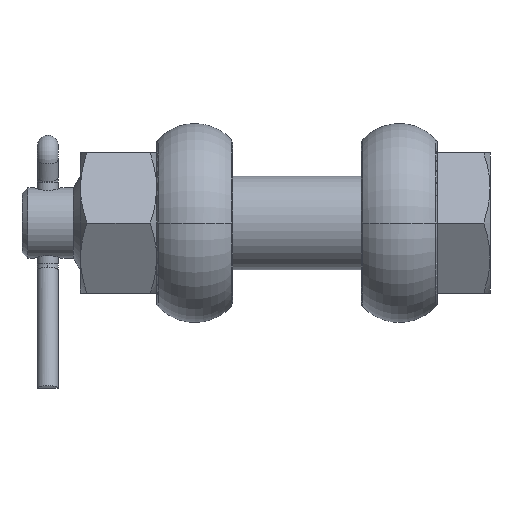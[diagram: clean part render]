
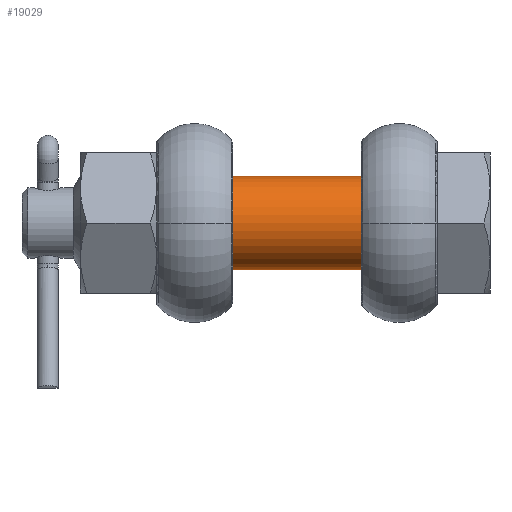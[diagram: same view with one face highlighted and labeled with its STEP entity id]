
A CAD part, front view. The second image highlights one B-rep face of the part: STEP entity #19029.
In plain terms, the highlighted cylindrical face has radius 8 mm (diameter 16 mm), a partial arc.
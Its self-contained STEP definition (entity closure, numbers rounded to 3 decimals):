
#225 = AXIS2_PLACEMENT_3D ( 'NONE', #18392, #20500, #24165 ) ;
#3738 = ORIENTED_EDGE ( 'NONE', *, *, #13844, .T. ) ;
#4123 = CYLINDRICAL_SURFACE ( 'NONE', #22238, 8. ) ;
#4561 = ORIENTED_EDGE ( 'NONE', *, *, #18175, .T. ) ;
#4965 = DIRECTION ( 'NONE',  ( -1., 0., 0. ) ) ;
#5085 = LINE ( 'NONE', #20805, #25328 ) ;
#6959 = CARTESIAN_POINT ( 'NONE',  ( 22., 0., 0. ) ) ;
#7570 = FACE_OUTER_BOUND ( 'NONE', #23518, .T. ) ;
#7672 = LINE ( 'NONE', #21552, #13549 ) ;
#9467 = VERTEX_POINT ( 'NONE', #24201 ) ;
#10211 = CARTESIAN_POINT ( 'NONE',  ( 24., 0., 0. ) ) ;
#10435 = CARTESIAN_POINT ( 'NONE',  ( 22., 0., -8. ) ) ;
#12988 = DIRECTION ( 'NONE',  ( -1., 0., 0. ) ) ;
#13549 = VECTOR ( 'NONE', #21464, 1000. ) ;
#13844 = EDGE_CURVE ( 'NONE', #18125, #19588, #19009, .T. ) ;
#15239 = EDGE_CURVE ( 'NONE', #25447, #9467, #23326, .T. ) ;
#16087 = CARTESIAN_POINT ( 'NONE',  ( 22., 0., 8. ) ) ;
#16903 = DIRECTION ( 'NONE',  ( 0., 0., 1. ) ) ;
#18125 = VERTEX_POINT ( 'NONE', #10435 ) ;
#18175 = EDGE_CURVE ( 'NONE', #19588, #9467, #5085, .T. ) ;
#18392 = CARTESIAN_POINT ( 'NONE',  ( -17., 0., 0. ) ) ;
#19009 = CIRCLE ( 'NONE', #23192, 8. ) ;
#19029 = ADVANCED_FACE ( 'NONE', ( #7570 ), #4123, .T. ) ;
#19588 = VERTEX_POINT ( 'NONE', #16087 ) ;
#20269 = EDGE_CURVE ( 'NONE', #18125, #25447, #7672, .T. ) ;
#20500 = DIRECTION ( 'NONE',  ( -1., 0., 0. ) ) ;
#20805 = CARTESIAN_POINT ( 'NONE',  ( 24., 0., 8. ) ) ;
#21464 = DIRECTION ( 'NONE',  ( -1., 0., 0. ) ) ;
#21552 = CARTESIAN_POINT ( 'NONE',  ( 24., 0., -8. ) ) ;
#22238 = AXIS2_PLACEMENT_3D ( 'NONE', #10211, #24151, #23894 ) ;
#22982 = CARTESIAN_POINT ( 'NONE',  ( -17., 0., -8. ) ) ;
#23192 = AXIS2_PLACEMENT_3D ( 'NONE', #6959, #12988, #16903 ) ;
#23326 = CIRCLE ( 'NONE', #225, 8. ) ;
#23518 = EDGE_LOOP ( 'NONE', ( #23529, #3738, #4561, #24027 ) ) ;
#23529 = ORIENTED_EDGE ( 'NONE', *, *, #20269, .F. ) ;
#23894 = DIRECTION ( 'NONE',  ( 0., 0., 1. ) ) ;
#24027 = ORIENTED_EDGE ( 'NONE', *, *, #15239, .F. ) ;
#24151 = DIRECTION ( 'NONE',  ( -1., 0., 0. ) ) ;
#24165 = DIRECTION ( 'NONE',  ( 0., 0., 1. ) ) ;
#24201 = CARTESIAN_POINT ( 'NONE',  ( -17., 0., 8. ) ) ;
#25328 = VECTOR ( 'NONE', #4965, 1000. ) ;
#25447 = VERTEX_POINT ( 'NONE', #22982 ) ;
